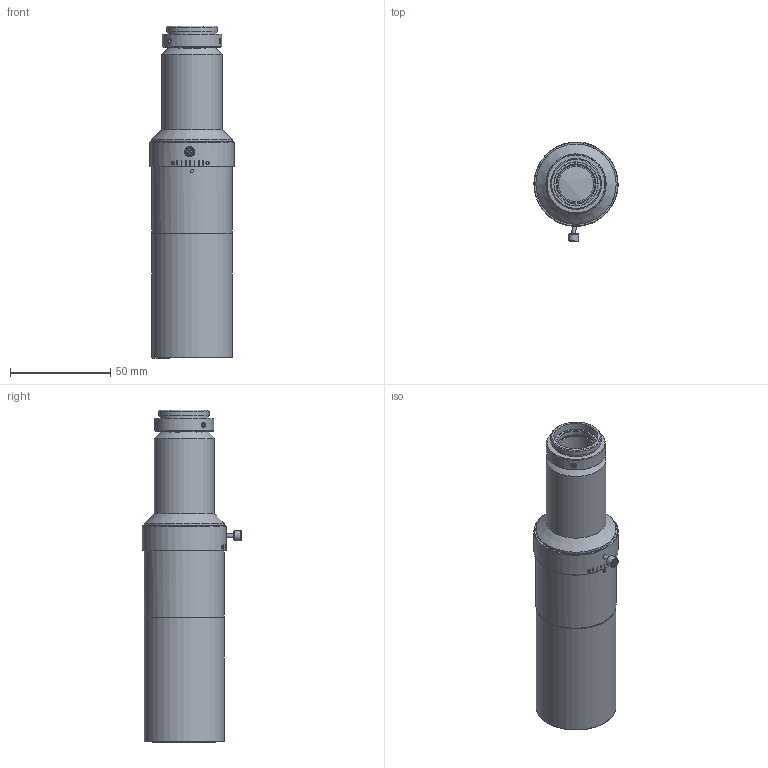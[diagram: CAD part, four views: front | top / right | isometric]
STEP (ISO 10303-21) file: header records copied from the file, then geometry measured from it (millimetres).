
FILE_DESCRIPTION(('STEP AP214'),'1');
FILE_NAME('TPC1-HMS110-SWIR.stp','2026-03-23T08:55:41',(' '),(' '),'Spatial InterOp 3D',' ',' ');
FILE_SCHEMA(('AUTOMOTIVE_DESIGN { 1 0 10303 214 1 1 1 1 }'));
Length unit declared in the file: metre
Products named in the file (2): TPC1-HMS110-SWIR; Component1
Assembly tree (1 placements, depth 2):
  TPC1-HMS110-SWIR
    Component1
Bounding box: 41.96 x 49.79 x 165.48 mm (x, y, z)
Volume: 72092.7 mm3; surface area: 43292.6 mm2
Topology: 1 solids, 11 shells, 339 faces, 781 edges, 512 vertices
Faces by surface type: plane 126, cylinder 84, cone 77, bspline 48, sphere 3, torus 1
Full cylindrical faces by diameter (mm): 1.5 x1, 2 x4, 2.5 x3, 3.6 x1, 5 x1, 17.5 x1, 19 x1, 19.4 x1, 20.2 x1, 21.8 x1, 22 x2, 24 x5, 24.1 x1, 24.9 x1, 25.3 x1, 25.7 x1, 28 x2, 29.5 x1, 30 x1, 30.5 x1, 31.5 x1, 31.7 x1, 32 x1, 32.7 x1, 33.5 x3, 34 x1, 34.4 x1, 35 x1, 35.2 x1, 35.5 x1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
Entity records: 15531 total; most frequent: CARTESIAN_POINT 6135, ORIENTED_EDGE 1240, DIRECTION 1231, EDGE_CURVE 620, AXIS2_PLACEMENT_3D 538, EDGE_LOOP 527, VERTEX_POINT 469, FACE_OUTER_BOUND 402
